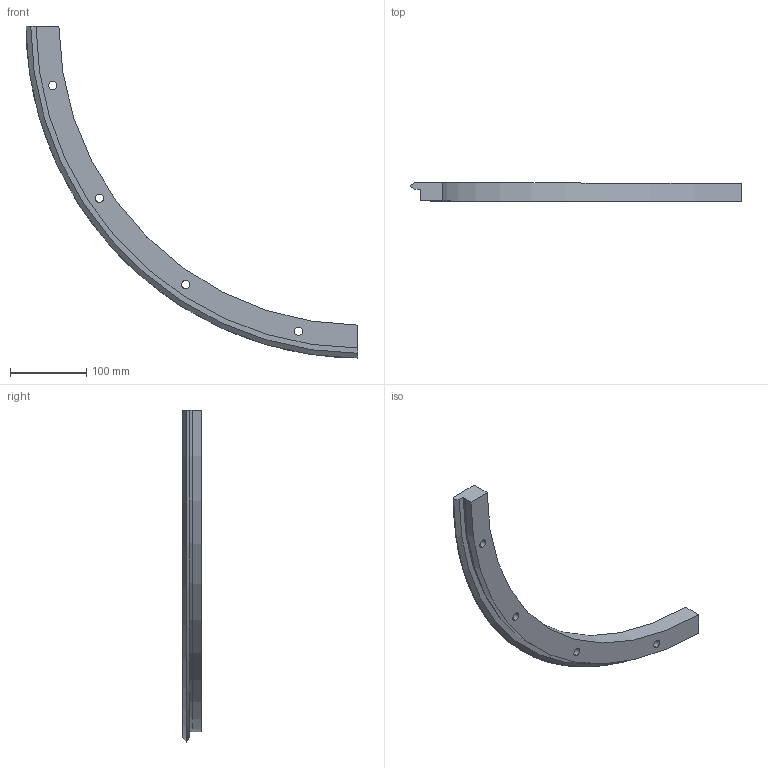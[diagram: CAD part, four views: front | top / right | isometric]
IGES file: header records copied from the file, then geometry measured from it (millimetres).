
Start section: 3D InterOp IGES (v. 2020 1.0.1), Spatial Corp. Copyright (c) 1999-2017.
Global section: file name: rel_874_r90.igs; native system: Spatial Corp.; preprocessor: 3D InterOp ACIS/IGES; author: TraceParts; organization: TraceParts S.A.; date: 20210201.044826; units: millimetre
Bounding box: 435.11 x 24 x 435.11 mm (x, y, z)
Surface area: 88551.6 mm2 (no closed solid volume)
Topology: 0 solids, 0 shells, 33 faces, 162 edges, 162 vertices
Faces by surface type: revolution 23, extrusion 10
